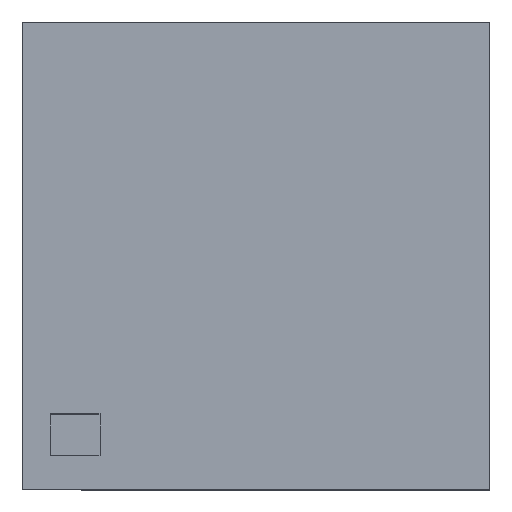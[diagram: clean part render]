
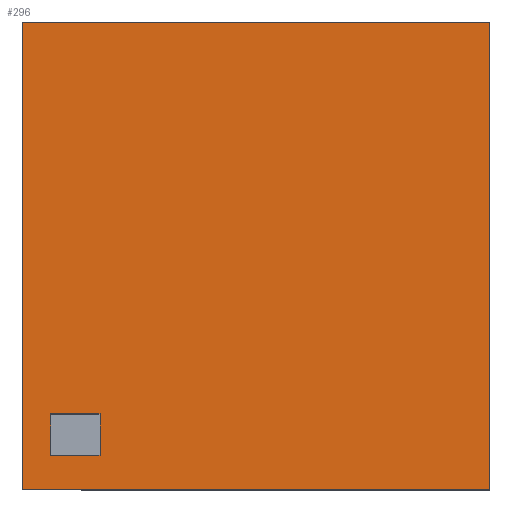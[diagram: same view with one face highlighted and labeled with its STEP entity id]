
A CAD part, top view. The second image highlights one B-rep face of the part: STEP entity #296.
In plain terms, the highlighted planar face has unit normal (0, 0, 1).
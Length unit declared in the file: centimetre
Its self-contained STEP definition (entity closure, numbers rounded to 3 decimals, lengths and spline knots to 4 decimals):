
#7 = DIRECTION ( 'NONE',  ( -1., 0., 0. ) ) ;
#9 = CARTESIAN_POINT ( 'NONE',  ( 166.0879, 72.5408, 1000. ) ) ;
#63 = ORIENTED_EDGE ( 'NONE', *, *, #500, .F. ) ;
#64 = EDGE_CURVE ( 'NONE', #793, #219, #918, .T. ) ;
#69 = LINE ( 'NONE', #370, #714 ) ;
#75 = LINE ( 'NONE', #798, #215 ) ;
#108 = VERTEX_POINT ( 'NONE', #235 ) ;
#110 = CARTESIAN_POINT ( 'NONE',  ( 0., 0., 1000. ) ) ;
#148 = VECTOR ( 'NONE', #748, 100. ) ;
#150 = CARTESIAN_POINT ( 'NONE',  ( 0., 1000., 1000. ) ) ;
#158 = CARTESIAN_POINT ( 'NONE',  ( 60.8965, 161.1666, 1000. ) ) ;
#175 = ORIENTED_EDGE ( 'NONE', *, *, #820, .T. ) ;
#182 = EDGE_LOOP ( 'NONE', ( #504, #641, #769, #175 ) ) ;
#195 = ORIENTED_EDGE ( 'NONE', *, *, #441, .F. ) ;
#198 = CARTESIAN_POINT ( 'NONE',  ( 0., 0., 1000. ) ) ;
#213 = CARTESIAN_POINT ( 'NONE',  ( 0., 1000., 1000. ) ) ;
#215 = VECTOR ( 'NONE', #498, 100. ) ;
#219 = VERTEX_POINT ( 'NONE', #110 ) ;
#225 = EDGE_CURVE ( 'NONE', #108, #856, #866, .T. ) ;
#235 = CARTESIAN_POINT ( 'NONE',  ( 1000., 0., 1000. ) ) ;
#254 = ORIENTED_EDGE ( 'NONE', *, *, #728, .F. ) ;
#296 = ADVANCED_FACE ( 'NONE', ( #347, #950 ), #876, .T. ) ;
#315 = EDGE_CURVE ( 'NONE', #219, #108, #69, .T. ) ;
#329 = EDGE_LOOP ( 'NONE', ( #254, #580, #195, #63 ) ) ;
#347 = FACE_BOUND ( 'NONE', #329, .T. ) ;
#352 = VECTOR ( 'NONE', #7, 100. ) ;
#353 = DIRECTION ( 'NONE',  ( 1., 0., 0. ) ) ;
#370 = CARTESIAN_POINT ( 'NONE',  ( 0., 0., 1000. ) ) ;
#375 = VECTOR ( 'NONE', #594, 100. ) ;
#390 = CARTESIAN_POINT ( 'NONE',  ( 0., 1000., 1000. ) ) ;
#418 = VECTOR ( 'NONE', #547, 100. ) ;
#423 = CARTESIAN_POINT ( 'NONE',  ( 60.8965, 72.5408, 1000. ) ) ;
#425 = DIRECTION ( 'NONE',  ( 0., 1., 0. ) ) ;
#441 = EDGE_CURVE ( 'NONE', #934, #560, #75, .T. ) ;
#469 = VERTEX_POINT ( 'NONE', #565 ) ;
#498 = DIRECTION ( 'NONE',  ( 0., 1., 0. ) ) ;
#500 = EDGE_CURVE ( 'NONE', #711, #934, #708, .T. ) ;
#504 = ORIENTED_EDGE ( 'NONE', *, *, #64, .T. ) ;
#520 = CARTESIAN_POINT ( 'NONE',  ( 60.8965, 72.5408, 1000. ) ) ;
#539 = LINE ( 'NONE', #390, #352 ) ;
#544 = DIRECTION ( 'NONE',  ( -1., 0., 0. ) ) ;
#547 = DIRECTION ( 'NONE',  ( 1., 0., 0. ) ) ;
#557 = VECTOR ( 'NONE', #544, 100. ) ;
#560 = VERTEX_POINT ( 'NONE', #767 ) ;
#565 = CARTESIAN_POINT ( 'NONE',  ( 60.8965, 161.1666, 1000. ) ) ;
#572 = VECTOR ( 'NONE', #425, 100. ) ;
#580 = ORIENTED_EDGE ( 'NONE', *, *, #862, .F. ) ;
#589 = AXIS2_PLACEMENT_3D ( 'NONE', #198, #631, #353 ) ;
#594 = DIRECTION ( 'NONE',  ( 0., -1., 0. ) ) ;
#631 = DIRECTION ( 'NONE',  ( 0., 0., 1. ) ) ;
#641 = ORIENTED_EDGE ( 'NONE', *, *, #315, .T. ) ;
#662 = CARTESIAN_POINT ( 'NONE',  ( 60.8965, 72.5408, 1000. ) ) ;
#708 = LINE ( 'NONE', #423, #418 ) ;
#711 = VERTEX_POINT ( 'NONE', #520 ) ;
#714 = VECTOR ( 'NONE', #734, 100. ) ;
#728 = EDGE_CURVE ( 'NONE', #469, #711, #804, .T. ) ;
#734 = DIRECTION ( 'NONE',  ( 1., 0., 0. ) ) ;
#748 = DIRECTION ( 'NONE',  ( 0., -1., 0. ) ) ;
#754 = CARTESIAN_POINT ( 'NONE',  ( 1000., 1000., 1000. ) ) ;
#767 = CARTESIAN_POINT ( 'NONE',  ( 166.0879, 161.1666, 1000. ) ) ;
#769 = ORIENTED_EDGE ( 'NONE', *, *, #225, .T. ) ;
#786 = CARTESIAN_POINT ( 'NONE',  ( 1000., 1000., 1000. ) ) ;
#793 = VERTEX_POINT ( 'NONE', #213 ) ;
#798 = CARTESIAN_POINT ( 'NONE',  ( 166.0879, 72.5408, 1000. ) ) ;
#804 = LINE ( 'NONE', #662, #375 ) ;
#820 = EDGE_CURVE ( 'NONE', #856, #793, #539, .T. ) ;
#833 = LINE ( 'NONE', #158, #557 ) ;
#856 = VERTEX_POINT ( 'NONE', #754 ) ;
#862 = EDGE_CURVE ( 'NONE', #560, #469, #833, .T. ) ;
#866 = LINE ( 'NONE', #786, #572 ) ;
#876 = PLANE ( 'NONE',  #589 ) ;
#918 = LINE ( 'NONE', #150, #148 ) ;
#934 = VERTEX_POINT ( 'NONE', #9 ) ;
#950 = FACE_OUTER_BOUND ( 'NONE', #182, .T. ) ;
